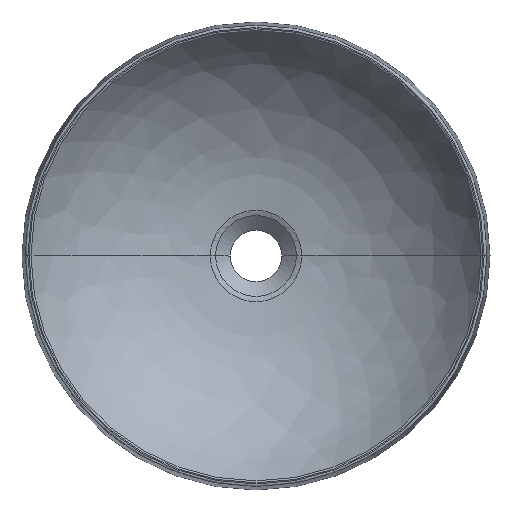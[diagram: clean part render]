
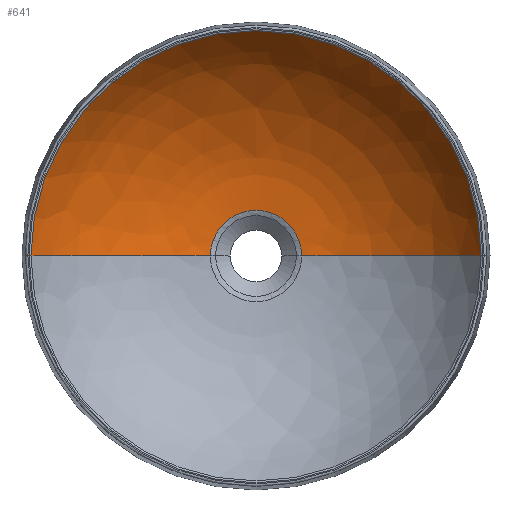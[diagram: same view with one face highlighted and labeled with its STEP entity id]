
A CAD part, top view. The second image highlights one B-rep face of the part: STEP entity #641.
In plain terms, the highlighted free-form (B-spline) face has degree [2, 2] with [3, 5] control points.
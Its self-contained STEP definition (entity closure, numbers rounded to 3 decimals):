
#572 = VERTEX_POINT('',#573);
#573 = CARTESIAN_POINT('',(39.022,0.,
    10.363));
#582 = VERTEX_POINT('',#583);
#583 = CARTESIAN_POINT('',(-39.022,0.,
    10.363));
#590 = EDGE_CURVE('',#572,#582,#591,.T.);
#591 = CIRCLE('',#592,39.022);
#592 = AXIS2_PLACEMENT_3D('',#593,#594,#595);
#593 = CARTESIAN_POINT('',(0.,0.,
    10.363));
#594 = DIRECTION('',(0.,0.,1.));
#595 = DIRECTION('',(-1.,0.,0.));
#641 = ADVANCED_FACE('',(#642),#670,.F.);
#642 = FACE_BOUND('',#643,.F.);
#643 = EDGE_LOOP('',(#644,#653,#654,#663));
#644 = ORIENTED_EDGE('',*,*,#645,.F.);
#645 = EDGE_CURVE('',#572,#646,#648,.T.);
#646 = VERTEX_POINT('',#647);
#647 = CARTESIAN_POINT('',(192.361,0.,
    104.06));
#648 = CIRCLE('',#649,199.723);
#649 = AXIS2_PLACEMENT_3D('',#650,#651,#652);
#650 = CARTESIAN_POINT('',(22.688,0.,
    209.418));
#651 = DIRECTION('',(0.,-1.,0.));
#652 = DIRECTION('',(-1.,0.,0.));
#653 = ORIENTED_EDGE('',*,*,#590,.T.);
#654 = ORIENTED_EDGE('',*,*,#655,.F.);
#655 = EDGE_CURVE('',#656,#582,#658,.T.);
#656 = VERTEX_POINT('',#657);
#657 = CARTESIAN_POINT('',(-192.361,0.,
    104.06));
#658 = CIRCLE('',#659,199.723);
#659 = AXIS2_PLACEMENT_3D('',#660,#661,#662);
#660 = CARTESIAN_POINT('',(-22.688,0.,
    209.418));
#661 = DIRECTION('',(0.,-1.,0.));
#662 = DIRECTION('',(1.,0.,0.));
#663 = ORIENTED_EDGE('',*,*,#664,.F.);
#664 = EDGE_CURVE('',#646,#656,#665,.T.);
#665 = CIRCLE('',#666,192.361);
#666 = AXIS2_PLACEMENT_3D('',#667,#668,#669);
#667 = CARTESIAN_POINT('',(0.,0.,
    104.06));
#668 = DIRECTION('',(0.,0.,1.));
#669 = DIRECTION('',(-1.,0.,0.));
#670 = ( BOUNDED_SURFACE() B_SPLINE_SURFACE(2,2,(
    (#671,#672,#673,#674,#675)
    ,(#676,#677,#678,#679,#680)
    ,(#681,#682,#683,#684,#685
)),.UNSPECIFIED.,.F.,.F.,.F.) B_SPLINE_SURFACE_WITH_KNOTS((3,3),(3,2,3),
  (1.653,2.586),(0.,1.571,3.142),
.UNSPECIFIED.) GEOMETRIC_REPRESENTATION_ITEM() RATIONAL_B_SPLINE_SURFACE
((
    (1.,0.707,1.,0.707,1.)
    ,(0.893,0.632,0.893,0.632
      ,0.893)
,(1.,0.707,1.,0.707,1.
))) REPRESENTATION_ITEM('') SURFACE() );
#671 = CARTESIAN_POINT('',(-39.022,0.,
    10.363));
#672 = CARTESIAN_POINT('',(-39.022,39.022,
    10.363));
#673 = CARTESIAN_POINT('',(0.,39.022,
    10.363));
#674 = CARTESIAN_POINT('',(39.022,39.022,
    10.363));
#675 = CARTESIAN_POINT('',(39.022,0.,
    10.363));
#676 = CARTESIAN_POINT('',(-139.29,0.,
    18.591));
#677 = CARTESIAN_POINT('',(-139.29,139.29,
    18.591));
#678 = CARTESIAN_POINT('',(0.,139.29,
    18.591));
#679 = CARTESIAN_POINT('',(139.29,139.29,
    18.591));
#680 = CARTESIAN_POINT('',(139.29,0.,
    18.591));
#681 = CARTESIAN_POINT('',(-192.361,0.,
    104.06));
#682 = CARTESIAN_POINT('',(-192.361,192.361,
    104.06));
#683 = CARTESIAN_POINT('',(0.,192.361,
    104.06));
#684 = CARTESIAN_POINT('',(192.361,192.361,
    104.06));
#685 = CARTESIAN_POINT('',(192.361,0.,
    104.06));
